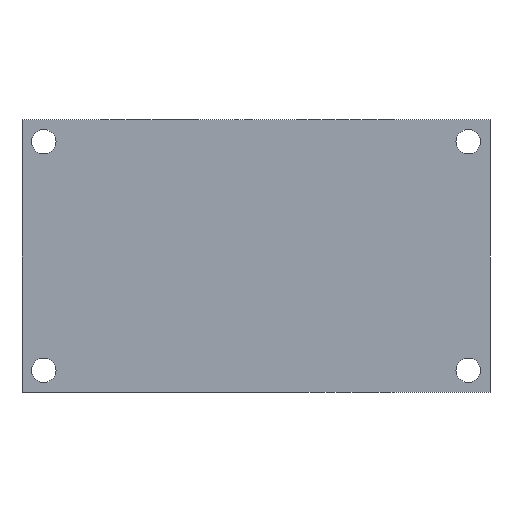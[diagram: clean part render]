
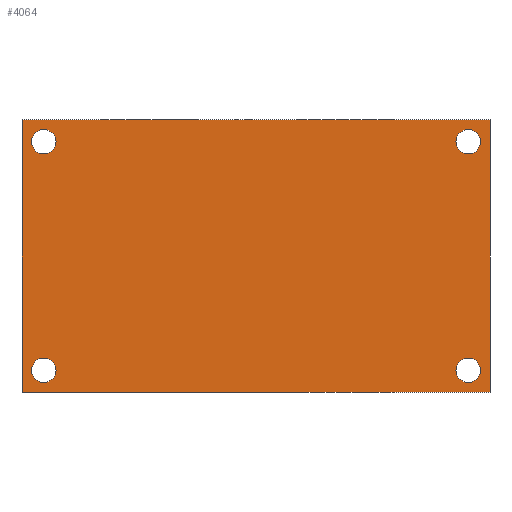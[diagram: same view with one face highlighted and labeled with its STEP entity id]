
A CAD part, front view. The second image highlights one B-rep face of the part: STEP entity #4064.
In plain terms, the highlighted planar face has unit normal (0, -1, 0).
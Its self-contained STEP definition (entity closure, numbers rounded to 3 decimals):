
#98 = EDGE_CURVE ( 'NONE', #6877, #7645, #4943, .T. ) ;
#148 = DIRECTION ( 'NONE',  ( 0., 0., 1. ) ) ;
#156 = CIRCLE ( 'NONE', #7327, 4.5 ) ;
#174 = VECTOR ( 'NONE', #5078, 1000. ) ;
#197 = EDGE_CURVE ( 'NONE', #6914, #6407, #2969, .T. ) ;
#203 = VERTEX_POINT ( 'NONE', #5327 ) ;
#239 = LINE ( 'NONE', #2250, #6022 ) ;
#325 = VERTEX_POINT ( 'NONE', #5587 ) ;
#464 = AXIS2_PLACEMENT_3D ( 'NONE', #7310, #3707, #148 ) ;
#503 = DIRECTION ( 'NONE',  ( 0., 0., 1. ) ) ;
#518 = DIRECTION ( 'NONE',  ( -1., 0., 0. ) ) ;
#525 = DIRECTION ( 'NONE',  ( 0., 0., 1. ) ) ;
#526 = AXIS2_PLACEMENT_3D ( 'NONE', #6830, #3515, #2919 ) ;
#552 = CARTESIAN_POINT ( 'NONE',  ( 0., -25., 50. ) ) ;
#725 = DIRECTION ( 'NONE',  ( 0., 1., 0. ) ) ;
#786 = ORIENTED_EDGE ( 'NONE', *, *, #1594, .T. ) ;
#824 = EDGE_LOOP ( 'NONE', ( #5438, #6433 ) ) ;
#949 = FACE_BOUND ( 'NONE', #824, .T. ) ;
#1014 = CIRCLE ( 'NONE', #5921, 4.5 ) ;
#1024 = CARTESIAN_POINT ( 'NONE',  ( 8., -25., 46.5 ) ) ;
#1031 = CARTESIAN_POINT ( 'NONE',  ( 164., -25., -37.5 ) ) ;
#1046 = FACE_BOUND ( 'NONE', #1729, .T. ) ;
#1228 = CARTESIAN_POINT ( 'NONE',  ( 0., -25., -50. ) ) ;
#1268 = LINE ( 'NONE', #4093, #7667 ) ;
#1270 = CARTESIAN_POINT ( 'NONE',  ( 164., -25., 37.5 ) ) ;
#1303 = AXIS2_PLACEMENT_3D ( 'NONE', #6978, #6371, #5760 ) ;
#1433 = VERTEX_POINT ( 'NONE', #6348 ) ;
#1559 = EDGE_LOOP ( 'NONE', ( #786, #6138, #6103, #3072 ) ) ;
#1594 = EDGE_CURVE ( 'NONE', #7645, #2667, #1860, .T. ) ;
#1708 = VERTEX_POINT ( 'NONE', #6645 ) ;
#1716 = CIRCLE ( 'NONE', #1303, 4.5 ) ;
#1729 = EDGE_LOOP ( 'NONE', ( #1967, #7479 ) ) ;
#1733 = EDGE_CURVE ( 'NONE', #4777, #1708, #3704, .T. ) ;
#1860 = LINE ( 'NONE', #552, #4841 ) ;
#1967 = ORIENTED_EDGE ( 'NONE', *, *, #1733, .T. ) ;
#2034 = EDGE_CURVE ( 'NONE', #1433, #2667, #1268, .T. ) ;
#2069 = CARTESIAN_POINT ( 'NONE',  ( 0., -25., 50. ) ) ;
#2207 = EDGE_CURVE ( 'NONE', #6407, #6914, #1014, .T. ) ;
#2250 = CARTESIAN_POINT ( 'NONE',  ( 172., -25., 50. ) ) ;
#2534 = CARTESIAN_POINT ( 'NONE',  ( 8., -25., 42. ) ) ;
#2543 = FACE_BOUND ( 'NONE', #7048, .T. ) ;
#2667 = VERTEX_POINT ( 'NONE', #1228 ) ;
#2698 = EDGE_CURVE ( 'NONE', #5648, #6629, #5385, .T. ) ;
#2790 = DIRECTION ( 'NONE',  ( 0., 0., 1. ) ) ;
#2836 = ORIENTED_EDGE ( 'NONE', *, *, #2886, .T. ) ;
#2886 = EDGE_CURVE ( 'NONE', #6629, #5648, #4819, .T. ) ;
#2904 = EDGE_CURVE ( 'NONE', #203, #325, #3503, .T. ) ;
#2919 = DIRECTION ( 'NONE',  ( 0., 0., 1. ) ) ;
#2969 = CIRCLE ( 'NONE', #526, 4.5 ) ;
#3003 = AXIS2_PLACEMENT_3D ( 'NONE', #2534, #6704, #3115 ) ;
#3072 = ORIENTED_EDGE ( 'NONE', *, *, #98, .T. ) ;
#3115 = DIRECTION ( 'NONE',  ( 0., 0., 1. ) ) ;
#3265 = CARTESIAN_POINT ( 'NONE',  ( 164., -25., -46.5 ) ) ;
#3326 = EDGE_CURVE ( 'NONE', #325, #203, #156, .T. ) ;
#3375 = DIRECTION ( 'NONE',  ( 0., 1., 0. ) ) ;
#3503 = CIRCLE ( 'NONE', #7437, 4.5 ) ;
#3515 = DIRECTION ( 'NONE',  ( 0., 1., 0. ) ) ;
#3546 = EDGE_LOOP ( 'NONE', ( #5463, #5081 ) ) ;
#3617 = DIRECTION ( 'NONE',  ( 0., 1., 0. ) ) ;
#3666 = EDGE_CURVE ( 'NONE', #1708, #4777, #1716, .T. ) ;
#3704 = CIRCLE ( 'NONE', #3003, 4.5 ) ;
#3707 = DIRECTION ( 'NONE',  ( 0., 1., 0. ) ) ;
#3812 = AXIS2_PLACEMENT_3D ( 'NONE', #7692, #4084, #503 ) ;
#3937 = CARTESIAN_POINT ( 'NONE',  ( 172., -25., 50. ) ) ;
#4064 = ADVANCED_FACE ( 'NONE', ( #7112, #2543, #949, #1046, #5516 ), #7646, .F. ) ;
#4084 = DIRECTION ( 'NONE',  ( 0., 1., 0. ) ) ;
#4093 = CARTESIAN_POINT ( 'NONE',  ( 172., -25., -50. ) ) ;
#4107 = DIRECTION ( 'NONE',  ( 0., 1., 0. ) ) ;
#4163 = CARTESIAN_POINT ( 'NONE',  ( 172., -25., 50. ) ) ;
#4304 = CARTESIAN_POINT ( 'NONE',  ( 164., -25., 42. ) ) ;
#4576 = CARTESIAN_POINT ( 'NONE',  ( 172., -25., 50. ) ) ;
#4777 = VERTEX_POINT ( 'NONE', #1024 ) ;
#4819 = CIRCLE ( 'NONE', #3812, 4.5 ) ;
#4841 = VECTOR ( 'NONE', #7120, 1000. ) ;
#4912 = DIRECTION ( 'NONE',  ( 0., 0., 1. ) ) ;
#4943 = LINE ( 'NONE', #3937, #174 ) ;
#5072 = ORIENTED_EDGE ( 'NONE', *, *, #2698, .T. ) ;
#5078 = DIRECTION ( 'NONE',  ( -1., 0., 0. ) ) ;
#5081 = ORIENTED_EDGE ( 'NONE', *, *, #2904, .T. ) ;
#5327 = CARTESIAN_POINT ( 'NONE',  ( 8., -25., -46.5 ) ) ;
#5385 = CIRCLE ( 'NONE', #464, 4.5 ) ;
#5402 = CARTESIAN_POINT ( 'NONE',  ( 164., -25., 46.5 ) ) ;
#5411 = DIRECTION ( 'NONE',  ( 0., 0., 1. ) ) ;
#5438 = ORIENTED_EDGE ( 'NONE', *, *, #197, .T. ) ;
#5463 = ORIENTED_EDGE ( 'NONE', *, *, #3326, .T. ) ;
#5516 = FACE_OUTER_BOUND ( 'NONE', #1559, .T. ) ;
#5571 = AXIS2_PLACEMENT_3D ( 'NONE', #4576, #3375, #2790 ) ;
#5587 = CARTESIAN_POINT ( 'NONE',  ( 8., -25., -37.5 ) ) ;
#5648 = VERTEX_POINT ( 'NONE', #3265 ) ;
#5760 = DIRECTION ( 'NONE',  ( 0., 0., 1. ) ) ;
#5921 = AXIS2_PLACEMENT_3D ( 'NONE', #4304, #725, #4912 ) ;
#6022 = VECTOR ( 'NONE', #6427, 1000. ) ;
#6103 = ORIENTED_EDGE ( 'NONE', *, *, #6180, .F. ) ;
#6138 = ORIENTED_EDGE ( 'NONE', *, *, #2034, .F. ) ;
#6180 = EDGE_CURVE ( 'NONE', #6877, #1433, #239, .T. ) ;
#6348 = CARTESIAN_POINT ( 'NONE',  ( 172., -25., -50. ) ) ;
#6371 = DIRECTION ( 'NONE',  ( 0., 1., 0. ) ) ;
#6407 = VERTEX_POINT ( 'NONE', #1270 ) ;
#6427 = DIRECTION ( 'NONE',  ( 0., 0., -1. ) ) ;
#6433 = ORIENTED_EDGE ( 'NONE', *, *, #2207, .T. ) ;
#6629 = VERTEX_POINT ( 'NONE', #1031 ) ;
#6645 = CARTESIAN_POINT ( 'NONE',  ( 8., -25., 37.5 ) ) ;
#6704 = DIRECTION ( 'NONE',  ( 0., 1., 0. ) ) ;
#6830 = CARTESIAN_POINT ( 'NONE',  ( 164., -25., 42. ) ) ;
#6877 = VERTEX_POINT ( 'NONE', #4163 ) ;
#6914 = VERTEX_POINT ( 'NONE', #5402 ) ;
#6978 = CARTESIAN_POINT ( 'NONE',  ( 8., -25., 42. ) ) ;
#7048 = EDGE_LOOP ( 'NONE', ( #2836, #5072 ) ) ;
#7112 = FACE_BOUND ( 'NONE', #3546, .T. ) ;
#7120 = DIRECTION ( 'NONE',  ( 0., 0., -1. ) ) ;
#7219 = CARTESIAN_POINT ( 'NONE',  ( 8., -25., -42. ) ) ;
#7310 = CARTESIAN_POINT ( 'NONE',  ( 164., -25., -42. ) ) ;
#7327 = AXIS2_PLACEMENT_3D ( 'NONE', #7219, #3617, #5411 ) ;
#7437 = AXIS2_PLACEMENT_3D ( 'NONE', #7716, #4107, #525 ) ;
#7479 = ORIENTED_EDGE ( 'NONE', *, *, #3666, .T. ) ;
#7645 = VERTEX_POINT ( 'NONE', #2069 ) ;
#7646 = PLANE ( 'NONE',  #5571 ) ;
#7667 = VECTOR ( 'NONE', #518, 1000. ) ;
#7692 = CARTESIAN_POINT ( 'NONE',  ( 164., -25., -42. ) ) ;
#7716 = CARTESIAN_POINT ( 'NONE',  ( 8., -25., -42. ) ) ;
